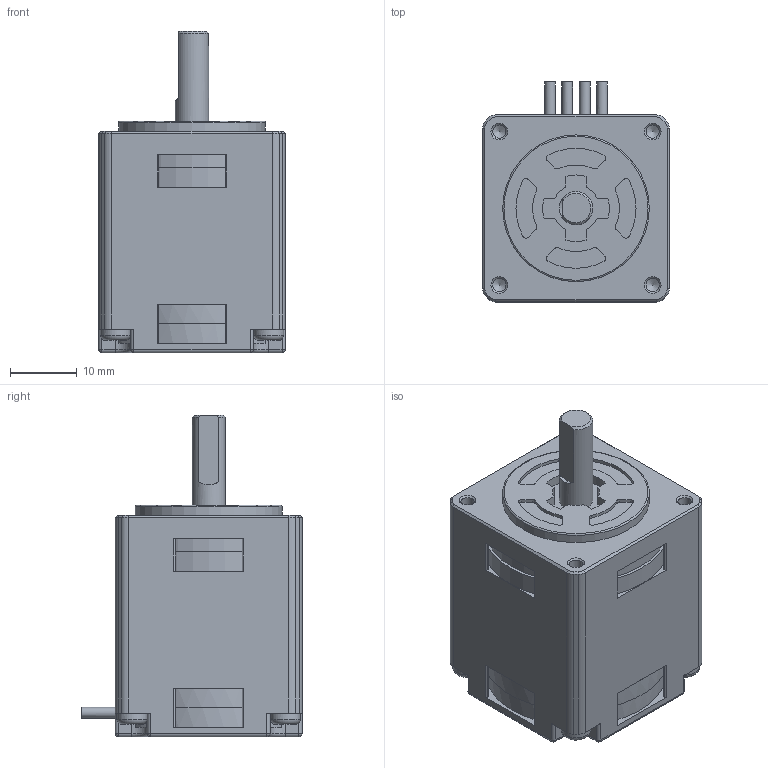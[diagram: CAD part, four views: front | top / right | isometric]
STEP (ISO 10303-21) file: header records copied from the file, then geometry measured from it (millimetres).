
FILE_DESCRIPTION((''),'2;1');
FILE_NAME('C:\Personal\SH2281-5671.stp','2010-10-06T16:23:10',('Sugita-Atsuko'),(''),'Autodesk Inventor 2010','Autodesk Inventor 2010','');
FILE_SCHEMA(('AUTOMOTIVE_DESIGN { 1 0 10303 214 1 1 1 1 }'));
Length unit declared in the file: millimetre
Products named in the file (1): Part1-1
Bounding box: 28 x 33 x 48.2 mm (x, y, z)
Volume: 25832.4 mm3; surface area: 7135 mm2
Topology: 1 solids, 1 shells, 265 faces, 734 edges, 460 vertices
Faces by surface type: cylinder 131, plane 92, cone 13, bspline 12, torus 9, sphere 8
Full cylindrical faces by diameter (mm): 1.6 x4, 4.5 x4, 5 x1, 22 x1, 27.1 x2, 27.9 x2
Entity records: 8505 total; most frequent: CARTESIAN_POINT 1738, DIRECTION 1505, ORIENTED_EDGE 1358, EDGE_CURVE 679, AXIS2_PLACEMENT_3D 579, VERTEX_POINT 440, VECTOR 347, LINE 347
